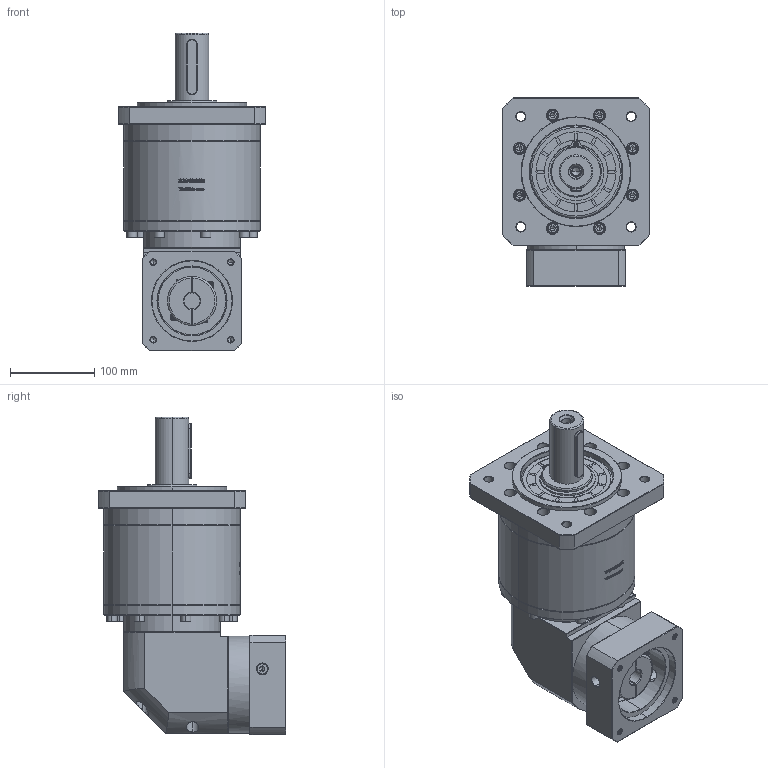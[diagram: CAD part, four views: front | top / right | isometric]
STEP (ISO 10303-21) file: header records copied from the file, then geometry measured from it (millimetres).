
FILE_DESCRIPTION (( 'STEP AP214' ), '1' );
FILE_NAME ('ZFR160A-D40-L3-19-95-130-M8.step', '2023-03-25T01:56:37', ( '' ), ( '' ), 'SwSTEP 2.0', 'SolidWorks 2016', '' );
FILE_SCHEMA (( 'AUTOMOTIVE_DESIGN' ));
Length unit declared in the file: millimetre
Products named in the file (1): ZFR160A-D40-L3-19-95-130-M8
Bounding box: 175 x 222.4 x 376.2 mm (x, y, z)
Volume: 5646766.4 mm3; surface area: 359534.3 mm2
Topology: 6 solids, 6 shells, 2782 faces, 7265 edges, 4656 vertices
Faces by surface type: plane 1373, bspline 497, cylinder 496, cone 370, torus 46
Entity records: 150123 total; most frequent: CARTESIAN_POINT 55531, ORIENTED_EDGE 14422, DIRECTION 11395, EDGE_CURVE 7211, VERTEX_POINT 4656, LINE 4501, VECTOR 4501, AXIS2_PLACEMENT_3D 3447
